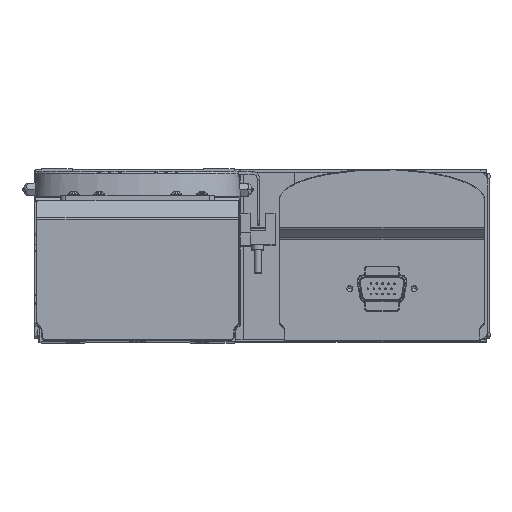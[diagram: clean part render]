
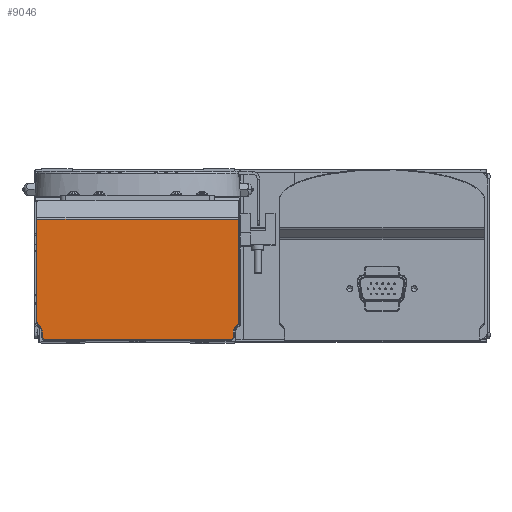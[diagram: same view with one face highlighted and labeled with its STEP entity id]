
A CAD part, top view. The second image highlights one B-rep face of the part: STEP entity #9046.
In plain terms, the highlighted planar face has unit normal (0, 0, 1).
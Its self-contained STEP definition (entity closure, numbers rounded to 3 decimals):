
#124 = EDGE_CURVE ( 'NONE', #37329, #37343, #41874, .T. ) ;
#435 = ORIENTED_EDGE ( 'NONE', *, *, #45197, .T. ) ;
#569 = CARTESIAN_POINT ( 'NONE',  ( 37.288, -20.288, 1010. ) ) ;
#694 = CARTESIAN_POINT ( 'NONE',  ( 36.376, -21.2, 1010. ) ) ;
#774 = DIRECTION ( 'NONE',  ( 0.707, -0.707, 0. ) ) ;
#788 = LINE ( 'NONE', #19301, #39403 ) ;
#1556 = VERTEX_POINT ( 'NONE', #39702 ) ;
#1654 = ORIENTED_EDGE ( 'NONE', *, *, #52703, .T. ) ;
#1793 = ORIENTED_EDGE ( 'NONE', *, *, #33663, .T. ) ;
#2202 = CARTESIAN_POINT ( 'NONE',  ( 38.702, -15.374, 1010. ) ) ;
#2664 = CARTESIAN_POINT ( 'NONE',  ( 39.2, 25.586, 1010. ) ) ;
#3806 = LINE ( 'NONE', #22202, #56713 ) ;
#6332 = DIRECTION ( 'NONE',  ( -1., 0., 0. ) ) ;
#7220 = CARTESIAN_POINT ( 'NONE',  ( -39.5, 25.586, 1010. ) ) ;
#7312 = CARTESIAN_POINT ( 'NONE',  ( -39.2, 9., 1010. ) ) ;
#8577 = VECTOR ( 'NONE', #50176, 1000. ) ;
#8882 = VECTOR ( 'NONE', #25530, 1000. ) ;
#8953 = AXIS2_PLACEMENT_3D ( 'NONE', #54353, #13296, #31605 ) ;
#8957 = EDGE_CURVE ( 'NONE', #50206, #37329, #788, .T. ) ;
#8995 = CARTESIAN_POINT ( 'NONE',  ( 37.874, -16.202, 1010. ) ) ;
#9046 = ADVANCED_FACE ( 'NONE', ( #51942 ), #10879, .F. ) ;
#9120 = VERTEX_POINT ( 'NONE', #30333 ) ;
#10494 = CARTESIAN_POINT ( 'NONE',  ( 37.5, -14.172, 1010. ) ) ;
#10879 = PLANE ( 'NONE',  #51796 ) ;
#12500 = ORIENTED_EDGE ( 'NONE', *, *, #53436, .T. ) ;
#12749 = CARTESIAN_POINT ( 'NONE',  ( 37.2, -17.828, 1010. ) ) ;
#12948 = DIRECTION ( 'NONE',  ( 0., 1., 0. ) ) ;
#13296 = DIRECTION ( 'NONE',  ( 0., 0., 1. ) ) ;
#13612 = LINE ( 'NONE', #31907, #8577 ) ;
#14691 = CARTESIAN_POINT ( 'NONE',  ( 37.2, -20.376, 1010. ) ) ;
#14732 = VERTEX_POINT ( 'NONE', #32528 ) ;
#15091 = VERTEX_POINT ( 'NONE', #2202 ) ;
#15541 = ORIENTED_EDGE ( 'NONE', *, *, #20154, .T. ) ;
#15637 = CARTESIAN_POINT ( 'NONE',  ( -37.2, 9., 1010. ) ) ;
#16567 = DIRECTION ( 'NONE',  ( 0.707, 0.707, 0. ) ) ;
#16779 = DIRECTION ( 'NONE',  ( 0., 0., -1. ) ) ;
#18760 = CARTESIAN_POINT ( 'NONE',  ( -39.2, 25.586, 1010. ) ) ;
#18924 = AXIS2_PLACEMENT_3D ( 'NONE', #57767, #16779, #35044 ) ;
#19086 = DIRECTION ( 'NONE',  ( 0.707, 0.707, 0. ) ) ;
#19301 = CARTESIAN_POINT ( 'NONE',  ( 0., -21.2, 1010. ) ) ;
#20120 = AXIS2_PLACEMENT_3D ( 'NONE', #22405, #40745, #58876 ) ;
#20154 = EDGE_CURVE ( 'NONE', #14732, #45720, #13612, .T. ) ;
#21641 = VERTEX_POINT ( 'NONE', #2664 ) ;
#21858 = VERTEX_POINT ( 'NONE', #36379 ) ;
#22202 = CARTESIAN_POINT ( 'NONE',  ( 37.2, 9., 1010. ) ) ;
#22325 = EDGE_CURVE ( 'NONE', #15091, #9120, #59395, .T. ) ;
#22405 = CARTESIAN_POINT ( 'NONE',  ( -39.5, -17.828, 1010. ) ) ;
#23053 = ORIENTED_EDGE ( 'NONE', *, *, #30643, .T. ) ;
#23761 = LINE ( 'NONE', #42077, #46724 ) ;
#24577 = EDGE_CURVE ( 'NONE', #56631, #21858, #48405, .T. ) ;
#25530 = DIRECTION ( 'NONE',  ( -1., 0., 0. ) ) ;
#25620 = DIRECTION ( 'NONE',  ( 0., -1., 0. ) ) ;
#27063 = ORIENTED_EDGE ( 'NONE', *, *, #45915, .T. ) ;
#27984 = VECTOR ( 'NONE', #33922, 1000. ) ;
#28536 = ORIENTED_EDGE ( 'NONE', *, *, #22325, .T. ) ;
#28802 = DIRECTION ( 'NONE',  ( 0., 0., 1. ) ) ;
#29192 = CARTESIAN_POINT ( 'NONE',  ( 0., 9., 1010. ) ) ;
#30333 = CARTESIAN_POINT ( 'NONE',  ( 39.2, -14.172, 1010. ) ) ;
#30643 = EDGE_CURVE ( 'NONE', #45720, #45716, #45965, .T. ) ;
#31605 = DIRECTION ( 'NONE',  ( -1., 0., 0. ) ) ;
#31907 = CARTESIAN_POINT ( 'NONE',  ( -31.538, -22.538, 1010. ) ) ;
#32475 = VECTOR ( 'NONE', #16567, 1000. ) ;
#32528 = CARTESIAN_POINT ( 'NONE',  ( -38.702, -15.374, 1010. ) ) ;
#32948 = EDGE_CURVE ( 'NONE', #45716, #1556, #56662, .T. ) ;
#33661 = AXIS2_PLACEMENT_3D ( 'NONE', #10494, #28802, #47089 ) ;
#33663 = EDGE_CURVE ( 'NONE', #21641, #56631, #34508, .T. ) ;
#33771 = ORIENTED_EDGE ( 'NONE', *, *, #32948, .T. ) ;
#33922 = DIRECTION ( 'NONE',  ( 0., -1., 0. ) ) ;
#34508 = LINE ( 'NONE', #7220, #8882 ) ;
#34777 = CIRCLE ( 'NONE', #8953, 1.7 ) ;
#35044 = DIRECTION ( 'NONE',  ( -1., 0., 0. ) ) ;
#35727 = LINE ( 'NONE', #54005, #38151 ) ;
#36379 = CARTESIAN_POINT ( 'NONE',  ( -39.2, -14.172, 1010. ) ) ;
#37068 = CARTESIAN_POINT ( 'NONE',  ( -37.2, -17.828, 1010. ) ) ;
#37329 = VERTEX_POINT ( 'NONE', #694 ) ;
#37343 = VERTEX_POINT ( 'NONE', #14691 ) ;
#37597 = DIRECTION ( 'NONE',  ( 1., 0., 0. ) ) ;
#37628 = EDGE_LOOP ( 'NONE', ( #28536, #27063, #1793, #50541, #12500, #15541, #23053, #33771, #59461, #55116, #56930, #1654, #435, #50404 ) ) ;
#38151 = VECTOR ( 'NONE', #12948, 1000. ) ;
#39403 = VECTOR ( 'NONE', #37597, 1000. ) ;
#39412 = LINE ( 'NONE', #57566, #32475 ) ;
#39702 = CARTESIAN_POINT ( 'NONE',  ( -37.2, -20.376, 1010. ) ) ;
#40054 = VECTOR ( 'NONE', #19086, 1000. ) ;
#40542 = DIRECTION ( 'NONE',  ( 0., 1., 0. ) ) ;
#40643 = EDGE_CURVE ( 'NONE', #1556, #50206, #23761, .T. ) ;
#40745 = DIRECTION ( 'NONE',  ( 0., 0., -1. ) ) ;
#41874 = LINE ( 'NONE', #569, #40054 ) ;
#42077 = CARTESIAN_POINT ( 'NONE',  ( -36.288, -21.288, 1010. ) ) ;
#44759 = CIRCLE ( 'NONE', #18924, 2.3 ) ;
#45197 = EDGE_CURVE ( 'NONE', #58366, #52750, #44759, .T. ) ;
#45716 = VERTEX_POINT ( 'NONE', #37068 ) ;
#45720 = VERTEX_POINT ( 'NONE', #55320 ) ;
#45915 = EDGE_CURVE ( 'NONE', #9120, #21641, #35727, .T. ) ;
#45965 = CIRCLE ( 'NONE', #20120, 2.3 ) ;
#46329 = VECTOR ( 'NONE', #25620, 1000. ) ;
#46724 = VECTOR ( 'NONE', #774, 1000. ) ;
#46960 = EDGE_CURVE ( 'NONE', #52750, #15091, #39412, .T. ) ;
#47089 = DIRECTION ( 'NONE',  ( -1., 0., 0. ) ) ;
#47469 = DIRECTION ( 'NONE',  ( 0., 0., -1. ) ) ;
#48405 = LINE ( 'NONE', #7312, #46329 ) ;
#48952 = CARTESIAN_POINT ( 'NONE',  ( -36.376, -21.2, 1010. ) ) ;
#50176 = DIRECTION ( 'NONE',  ( 0.707, -0.707, 0. ) ) ;
#50206 = VERTEX_POINT ( 'NONE', #48952 ) ;
#50404 = ORIENTED_EDGE ( 'NONE', *, *, #46960, .T. ) ;
#50541 = ORIENTED_EDGE ( 'NONE', *, *, #24577, .T. ) ;
#51796 = AXIS2_PLACEMENT_3D ( 'NONE', #29192, #47469, #6332 ) ;
#51942 = FACE_OUTER_BOUND ( 'NONE', #37628, .T. ) ;
#52703 = EDGE_CURVE ( 'NONE', #37343, #58366, #3806, .T. ) ;
#52750 = VERTEX_POINT ( 'NONE', #8995 ) ;
#53436 = EDGE_CURVE ( 'NONE', #21858, #14732, #34777, .T. ) ;
#54005 = CARTESIAN_POINT ( 'NONE',  ( 39.2, 9., 1010. ) ) ;
#54353 = CARTESIAN_POINT ( 'NONE',  ( -37.5, -14.172, 1010. ) ) ;
#55116 = ORIENTED_EDGE ( 'NONE', *, *, #8957, .T. ) ;
#55320 = CARTESIAN_POINT ( 'NONE',  ( -37.874, -16.202, 1010. ) ) ;
#56631 = VERTEX_POINT ( 'NONE', #18760 ) ;
#56662 = LINE ( 'NONE', #15637, #27984 ) ;
#56713 = VECTOR ( 'NONE', #40542, 1000. ) ;
#56930 = ORIENTED_EDGE ( 'NONE', *, *, #124, .T. ) ;
#57566 = CARTESIAN_POINT ( 'NONE',  ( 31.538, -22.538, 1010. ) ) ;
#57767 = CARTESIAN_POINT ( 'NONE',  ( 39.5, -17.828, 1010. ) ) ;
#58366 = VERTEX_POINT ( 'NONE', #12749 ) ;
#58876 = DIRECTION ( 'NONE',  ( -1., 0., 0. ) ) ;
#59395 = CIRCLE ( 'NONE', #33661, 1.7 ) ;
#59461 = ORIENTED_EDGE ( 'NONE', *, *, #40643, .T. ) ;
